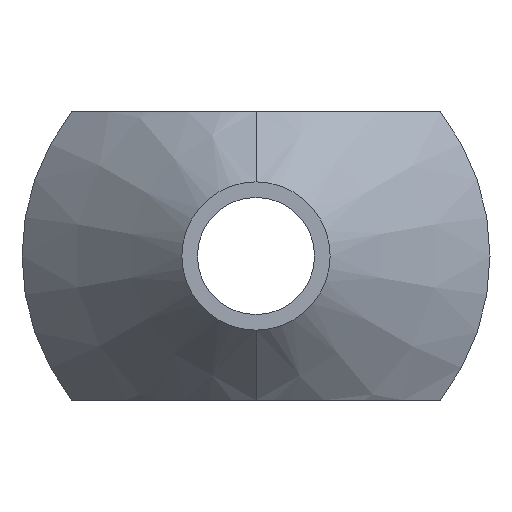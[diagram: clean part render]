
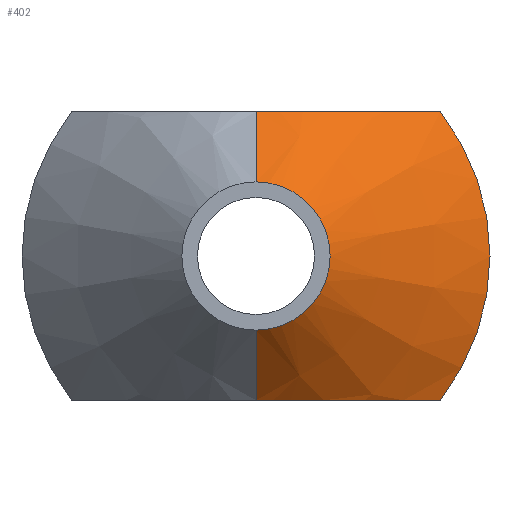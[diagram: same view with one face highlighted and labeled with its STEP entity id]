
A CAD part, front view. The second image highlights one B-rep face of the part: STEP entity #402.
In plain terms, the highlighted conical face has half-angle 45 degrees and reference radius 0.95 mm.
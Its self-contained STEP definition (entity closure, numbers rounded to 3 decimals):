
#2 = B_SPLINE_CURVE_WITH_KNOTS ( 'NONE', 3,
 ( #709, #639, #886, #235, #634, #165 ),
 .UNSPECIFIED., .F., .F.,
 ( 4, 2, 4 ),
 ( 0.006, 0.007, 0.009 ),
 .UNSPECIFIED. ) ;
#11 = EDGE_CURVE ( 'NONE', #584, #217, #2, .T. ) ;
#25 = ORIENTED_EDGE ( 'NONE', *, *, #725, .F. ) ;
#26 = DIRECTION ( 'NONE',  ( 0., 0., -1. ) ) ;
#78 = VERTEX_POINT ( 'NONE', #230 ) ;
#103 = VERTEX_POINT ( 'NONE', #155 ) ;
#155 = CARTESIAN_POINT ( 'NONE',  ( 0., 8.2, 0.95 ) ) ;
#160 = VECTOR ( 'NONE', #715, 1000. ) ;
#162 = CARTESIAN_POINT ( 'NONE',  ( 2.362, 10.25, -1.85 ) ) ;
#165 = CARTESIAN_POINT ( 'NONE',  ( 2.362, 10.25, 1.85 ) ) ;
#175 = AXIS2_PLACEMENT_3D ( 'NONE', #177, #850, #26 ) ;
#177 = CARTESIAN_POINT ( 'NONE',  ( 0., 8.2, 0. ) ) ;
#178 = ORIENTED_EDGE ( 'NONE', *, *, #200, .T. ) ;
#183 = CARTESIAN_POINT ( 'NONE',  ( 2.362, 10.25, -1.85 ) ) ;
#200 = EDGE_CURVE ( 'NONE', #841, #217, #834, .T. ) ;
#203 = ORIENTED_EDGE ( 'NONE', *, *, #302, .T. ) ;
#212 = CONICAL_SURFACE ( 'NONE', #287, 0.95, 0.785 ) ;
#217 = VERTEX_POINT ( 'NONE', #856 ) ;
#230 = CARTESIAN_POINT ( 'NONE',  ( 0., 9.1, -1.85 ) ) ;
#235 = CARTESIAN_POINT ( 'NONE',  ( 1.654, 9.711, 1.85 ) ) ;
#237 = CARTESIAN_POINT ( 'NONE',  ( 1.654, 9.711, -1.85 ) ) ;
#250 = DIRECTION ( 'NONE',  ( 0., -1., 0. ) ) ;
#258 = EDGE_CURVE ( 'NONE', #375, #103, #731, .T. ) ;
#286 = LINE ( 'NONE', #368, #472 ) ;
#287 = AXIS2_PLACEMENT_3D ( 'NONE', #793, #328, #730 ) ;
#302 = EDGE_CURVE ( 'NONE', #375, #78, #286, .T. ) ;
#306 = CARTESIAN_POINT ( 'NONE',  ( 0.453, 9.1, -1.85 ) ) ;
#328 = DIRECTION ( 'NONE',  ( 0., 1., 0. ) ) ;
#356 = ORIENTED_EDGE ( 'NONE', *, *, #258, .F. ) ;
#368 = CARTESIAN_POINT ( 'NONE',  ( 0., 8.2, -0.95 ) ) ;
#375 = VERTEX_POINT ( 'NONE', #588 ) ;
#402 = ADVANCED_FACE ( 'NONE', ( #815 ), #212, .T. ) ;
#472 = VECTOR ( 'NONE', #839, 1000. ) ;
#494 = ORIENTED_EDGE ( 'NONE', *, *, #772, .F. ) ;
#520 = CARTESIAN_POINT ( 'NONE',  ( 0., 10.25, 0. ) ) ;
#549 = LINE ( 'NONE', #645, #160 ) ;
#571 = CARTESIAN_POINT ( 'NONE',  ( 2.012, 9.975, -1.85 ) ) ;
#584 = VERTEX_POINT ( 'NONE', #769 ) ;
#588 = CARTESIAN_POINT ( 'NONE',  ( 0., 8.2, -0.95 ) ) ;
#634 = CARTESIAN_POINT ( 'NONE',  ( 2.012, 9.975, 1.85 ) ) ;
#639 = CARTESIAN_POINT ( 'NONE',  ( 0.453, 9.1, 1.85 ) ) ;
#645 = CARTESIAN_POINT ( 'NONE',  ( 0., 8.2, 0.95 ) ) ;
#648 = DIRECTION ( 'NONE',  ( 0., 0., -1. ) ) ;
#686 = EDGE_LOOP ( 'NONE', ( #356, #203, #25, #178, #780, #494 ) ) ;
#709 = CARTESIAN_POINT ( 'NONE',  ( 0., 9.1, 1.85 ) ) ;
#711 = CARTESIAN_POINT ( 'NONE',  ( 0.88, 9.274, -1.85 ) ) ;
#715 = DIRECTION ( 'NONE',  ( 0., 0.707, 0.707 ) ) ;
#725 = EDGE_CURVE ( 'NONE', #841, #78, #830, .T. ) ;
#730 = DIRECTION ( 'NONE',  ( 0., 0., 1. ) ) ;
#731 = CIRCLE ( 'NONE', #175, 0.95 ) ;
#739 = AXIS2_PLACEMENT_3D ( 'NONE', #520, #250, #648 ) ;
#769 = CARTESIAN_POINT ( 'NONE',  ( 0., 9.1, 1.85 ) ) ;
#772 = EDGE_CURVE ( 'NONE', #103, #584, #549, .T. ) ;
#776 = CARTESIAN_POINT ( 'NONE',  ( 0., 9.1, -1.85 ) ) ;
#780 = ORIENTED_EDGE ( 'NONE', *, *, #11, .F. ) ;
#793 = CARTESIAN_POINT ( 'NONE',  ( 0., 8.2, 0. ) ) ;
#815 = FACE_OUTER_BOUND ( 'NONE', #686, .T. ) ;
#830 = B_SPLINE_CURVE_WITH_KNOTS ( 'NONE', 3,
 ( #162, #571, #237, #711, #306, #776 ),
 .UNSPECIFIED., .F., .F.,
 ( 4, 2, 4 ),
 ( 0.01, 0.011, 0.012 ),
 .UNSPECIFIED. ) ;
#834 = CIRCLE ( 'NONE', #739, 3. ) ;
#839 = DIRECTION ( 'NONE',  ( 0., 0.707, -0.707 ) ) ;
#841 = VERTEX_POINT ( 'NONE', #183 ) ;
#850 = DIRECTION ( 'NONE',  ( 0., -1., 0. ) ) ;
#856 = CARTESIAN_POINT ( 'NONE',  ( 2.362, 10.25, 1.85 ) ) ;
#886 = CARTESIAN_POINT ( 'NONE',  ( 0.88, 9.274, 1.85 ) ) ;
